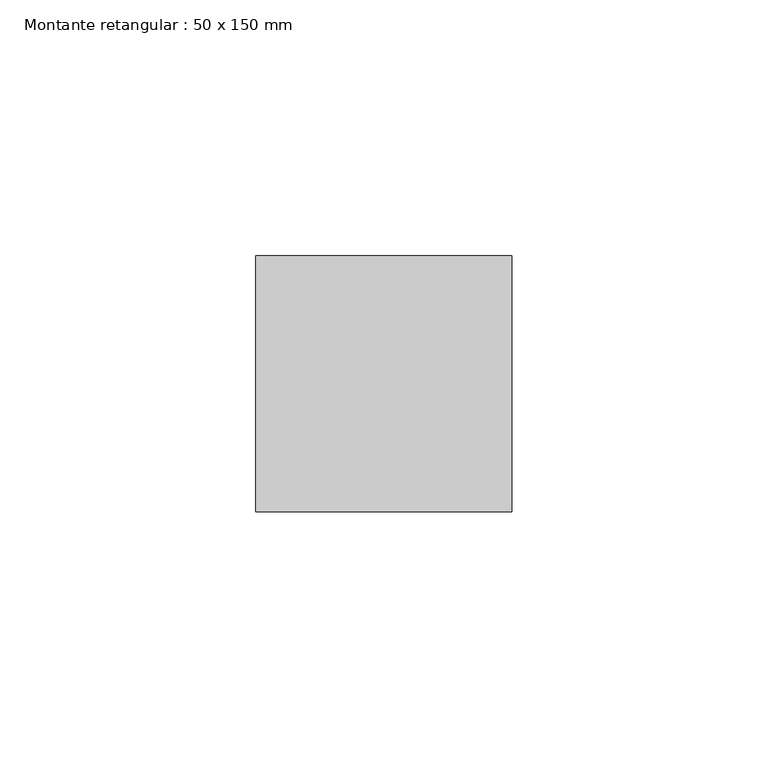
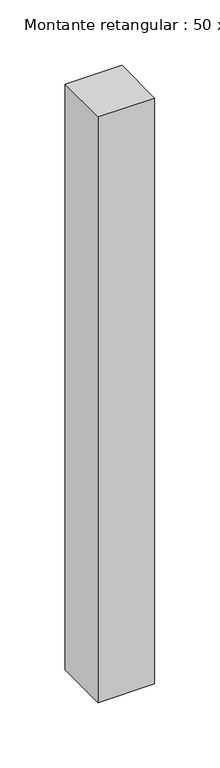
"""IFC4 building model written with IfcOpenShell, lengths in millimetres: member geometry, Montante retangular : 50 x 150 mm."""

import ifcopenshell
import ifcopenshell.guid

model = None  # the IFC model being written
_history = None  # IfcOwnerHistory: only IFC2X3 demands one
_inside = {}  # id of a spatial element -> (the spatial element, [elements in it])
_under = {}  # id of a project, library or spatial element -> (it, [spatial elements below it])
_declared = {}  # id of a project -> (the project, [libraries it declares])
_typed = {}  # id of a type object -> (the type object, [elements of that type])
_made_of = {}  # id of a material, layer set ... -> (it, [elements and type objects made of it])


def new_model(schema):
    """Start an empty IFC model of exactly this schema.

    Asked for "IFC4X3", IfcOpenShell would pick the latest addendum, in which some entities
    have other attributes; the version numbers below select the first issue.
    IFC2X3 requires an IfcOwnerHistory on every rooted entity: one is made here for all.
    """
    global model, _history
    if schema == "IFC4X3":
        model = ifcopenshell.file(schema_version=(4, 3, 0, 0))
    else:
        model = ifcopenshell.file(schema=schema)
    _inside.clear()
    _under.clear()
    _declared.clear()
    _typed.clear()
    _made_of.clear()
    _history = None
    if model.schema == "IFC2X3":
        org = make("IfcOrganization", Name="unknown")
        user = make(
            "IfcPersonAndOrganization",
            ThePerson=make("IfcPerson", FamilyName="unknown"),
            TheOrganization=org,
        )
        app = make(
            "IfcApplication",
            ApplicationDeveloper=org,
            Version="unknown",
            ApplicationFullName="unknown",
            ApplicationIdentifier="unknown",
        )
        _history = make(
            "IfcOwnerHistory",
            OwningUser=user,
            OwningApplication=app,
            ChangeAction="ADDED",
            CreationDate=0,
        )
    return model


def make(cls, **values):
    """One entity of the class cls with the attributes given. An attribute that is None is left unset."""
    return model.create_entity(
        cls, **{name: value for name, value in values.items() if value is not None}
    )


def rooted(cls, **values):
    """An entity with a GlobalId (a new one), such as an element, a storey or a relation."""
    return make(cls, GlobalId=ifcopenshell.guid.new(), OwnerHistory=_history, **values)


def si_unit(unit_type, name, prefix=None):
    """IfcSIUnit, for example si_unit("LENGTHUNIT", "METRE", prefix="MILLI")."""
    return make("IfcSIUnit", UnitType=unit_type, Prefix=prefix, Name=name)


def assignment(units):
    """IfcUnitAssignment: the units of a project."""
    return None if units is None else make("IfcUnitAssignment", Units=units)


def point(xyz):
    """IfcCartesianPoint."""
    return None if xyz is None else make("IfcCartesianPoint", Coordinates=xyz)


def direction(xyz):
    """IfcDirection."""
    return None if xyz is None else make("IfcDirection", DirectionRatios=xyz)


def frame(location, z_axis=None, x_axis=None):
    """IfcAxis2Placement3D, a coordinate frame: its origin and axes. An axis left out is left unset."""
    return make(
        "IfcAxis2Placement3D",
        Location=point(location),
        Axis=direction(z_axis),
        RefDirection=direction(x_axis),
    )


def origin():
    """The frame at (0, 0, 0) with its axes left unset."""
    return frame((0.0, 0.0, 0.0))


def place(relative_to, where):
    """IfcLocalPlacement: puts the frame where relative to a parent placement (None: the world)."""
    return make(
        "IfcLocalPlacement", PlacementRelTo=relative_to, RelativePlacement=where
    )


def context(
    kind, dimensions, precision=None, world=None, true_north=None, identifier=None
):
    """IfcGeometricRepresentationContext, for example the 3D "Model" context."""
    return make(
        "IfcGeometricRepresentationContext",
        ContextIdentifier=identifier,
        ContextType=kind,
        CoordinateSpaceDimension=dimensions,
        Precision=precision,
        WorldCoordinateSystem=world,
        TrueNorth=true_north,
    )


def project(units=None, contexts=None):
    """IfcProject with its units and contexts."""
    return rooted(
        "IfcProject",
        Name="project",
        RepresentationContexts=contexts,
        UnitsInContext=assignment(units),
    )


def spatial(cls, under=None, at=None, **own):
    """A site, building, storey or space (cls), placed at a placement, below another one or the project."""
    s = rooted(cls, ObjectPlacement=at, **own)
    if under is not None:
        _under.setdefault(under.id(), (under, []))[1].append(s)
    return s


def polyline(points):
    """IfcPolyline through the points."""
    return make("IfcPolyline", Points=[point(p) for p in points])


def outline(outer, holes=None, kind="AREA"):
    """IfcArbitraryClosedProfileDef: a profile drawn as a closed curve; with holes, ...WithVoids."""
    if holes is None:
        return make("IfcArbitraryClosedProfileDef", ProfileType=kind, OuterCurve=outer)
    return make(
        "IfcArbitraryProfileDefWithVoids",
        ProfileType=kind,
        OuterCurve=outer,
        InnerCurves=holes,
    )


def extrude(swept, where, along, depth):
    """IfcExtrudedAreaSolid: the profile swept, set in the frame where, extruded along a direction by depth."""
    return make(
        "IfcExtrudedAreaSolid",
        SweptArea=swept,
        Position=where,
        ExtrudedDirection=direction(along),
        Depth=depth,
    )


def shape(context_of_items, identifier, shape_type, items):
    """IfcShapeRepresentation: the items that make up one representation, for example the "Body"."""
    return make(
        "IfcShapeRepresentation",
        ContextOfItems=context_of_items,
        RepresentationIdentifier=identifier,
        RepresentationType=shape_type,
        Items=items,
    )


def source(mapping_origin, context_of_items, identifier, shape_type, items):
    """IfcRepresentationMap: a shape defined once, which mapped items show again and again."""
    return make(
        "IfcRepresentationMap",
        MappingOrigin=mapping_origin,
        MappedRepresentation=shape(context_of_items, identifier, shape_type, items),
    )


def transform(
    local_origin,
    x_axis=None,
    y_axis=None,
    z_axis=None,
    scale=None,
    scale2=None,
    scale3=None,
    uniform=True,
):
    """IfcCartesianTransformationOperator3D, or its non-uniform kind. x_axis, y_axis, z_axis: its Axis1, 2, 3."""
    if uniform:
        return make(
            "IfcCartesianTransformationOperator3D",
            Axis1=direction(x_axis),
            Axis2=direction(y_axis),
            LocalOrigin=point(local_origin),
            Scale=scale,
            Axis3=direction(z_axis),
        )
    return make(
        "IfcCartesianTransformationOperator3DnonUniform",
        Axis1=direction(x_axis),
        Axis2=direction(y_axis),
        LocalOrigin=point(local_origin),
        Scale=scale,
        Axis3=direction(z_axis),
        Scale2=scale2,
        Scale3=scale3,
    )


def mapped(mapping_source, mapping_target):
    """IfcMappedItem: shows the shape of a source again, moved by a transform."""
    return make(
        "IfcMappedItem", MappingSource=mapping_source, MappingTarget=mapping_target
    )


def made_of(thing, what):
    """Note that an element or type object is made of a material, layer set ...; save() writes the relation."""
    if what is not None:
        _made_of.setdefault(what.id(), (what, []))[1].append(thing)
    return thing


def element(
    cls,
    number,
    at=None,
    inside=None,
    cuts=None,
    type_object=None,
    material=None,
    context=None,
    identifier="Body",
    shape_type=None,
    held_by="IfcProductDefinitionShape",
    body=None,
    shapes=None,
    **own,
):
    """One element of the class cls, such as IfcWall. Its Tag is "e" and its number.

    at: its placement. inside: the storey or other place that contains it. cuts: it is an
    opening in that element (IfcRelVoidsElement). A single representation is given by context,
    identifier, shape_type and body (its items); several are given by shapes. held_by: the class
    of the entity that holds the representations. save() writes the other relations.
    """
    e = rooted(cls, Tag="e%d" % number, ObjectPlacement=at, **own)
    if body is not None:
        shapes = [shape(context, identifier, shape_type, body)]
    if shapes is not None:
        e.Representation = make(held_by, Representations=shapes)
    if inside is not None:
        _inside.setdefault(inside.id(), (inside, []))[1].append(e)
    if cuts is not None:
        rooted(
            "IfcRelVoidsElement", RelatingBuildingElement=cuts, RelatedOpeningElement=e
        )
    if type_object is not None:
        _typed.setdefault(type_object.id(), (type_object, []))[1].append(e)
    return made_of(e, material)


def aggregate(whole, parts):
    """IfcRelAggregates: a whole, such as a stair, and the parts it consists of."""
    return rooted("IfcRelAggregates", RelatingObject=whole, RelatedObjects=parts)


def save(model, path):
    """Write the relations noted so far, then the file.

    IfcRelAggregates (storeys below a building ...), IfcRelContainedInSpatialStructure (elements
    in a storey), IfcRelDefinesByType, IfcRelAssociatesMaterial and IfcRelDeclares: one each for
    every whole, place, type object, material and project.
    """
    for whole, parts in _under.values():
        aggregate(whole, parts)
    for where, things in _inside.values():
        rooted(
            "IfcRelContainedInSpatialStructure",
            RelatedElements=things,
            RelatingStructure=where,
        )
    for kind, things in _typed.values():
        rooted("IfcRelDefinesByType", RelatedObjects=things, RelatingType=kind)
    for what, things in _made_of.values():
        rooted("IfcRelAssociatesMaterial", RelatedObjects=things, RelatingMaterial=what)
    for by, libraries in _declared.values():
        rooted("IfcRelDeclares", RelatingContext=by, RelatedDefinitions=libraries)
    model.write(path)


def montante_retangular_50_x_150_mm_e5c0beb1(model_context):
    return source(origin(), model_context, "Body", "SweptSolid", [
        extrude(outline(polyline([(25.0, 25.0), (25.0, -25.0), (-25.0, -25.0), (-25.0, 25.0), (25.0, 25.0)])), frame((0.0, 0.0, -545.8333333), z_axis=(0.0, 0.0, 1.0), x_axis=(1.0, 0.0, 0.0)), (0.0, 0.0, 1.0), 545.8333333),
    ])


if __name__ == "__main__":
    model = new_model("IFC4")
    model_context = context("Model", 3, world=origin())
    ifc_project = project(units=[si_unit("LENGTHUNIT", "METRE", prefix="MILLI")], contexts=[model_context])
    site = spatial("IfcSite", under=ifc_project)
    building = spatial("IfcBuilding", under=site)
    placement = place(None, origin())
    montante_retangular_50_x_150_mm_shape = montante_retangular_50_x_150_mm_e5c0beb1(model_context)
    element("IfcMember", 1, ObjectType="Montante retangular : 50 x 150 mm", at=placement, inside=building, context=model_context, shape_type="MappedRepresentation", body=[
        mapped(montante_retangular_50_x_150_mm_shape, transform((0.0, 0.0, 0.0), x_axis=(1.0, 0.0, 0.0), y_axis=(0.0, 1.0, 0.0), z_axis=(0.0, 0.0, 1.0))),
    ])
    save(model, "model.ifc")
